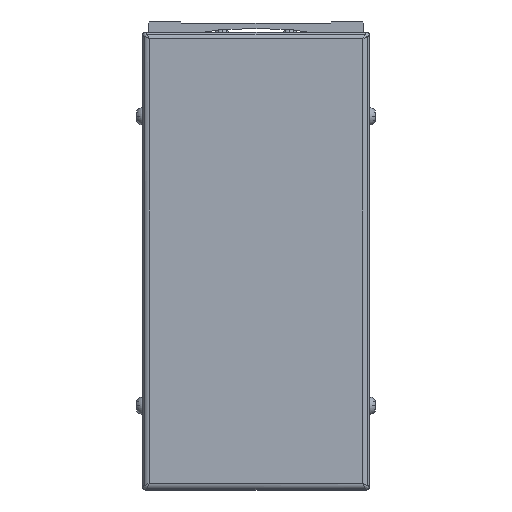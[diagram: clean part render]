
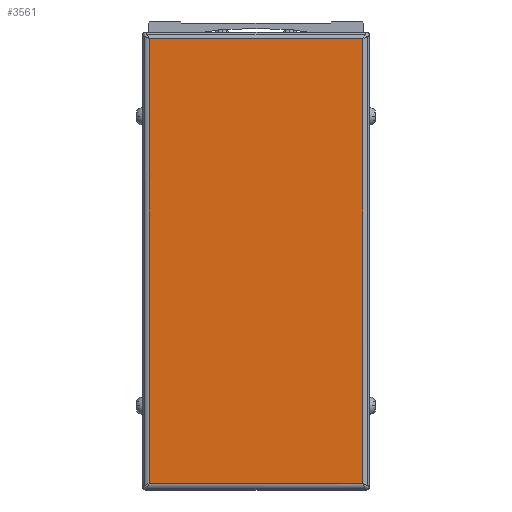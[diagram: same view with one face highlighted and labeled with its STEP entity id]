
A CAD part, front view. The second image highlights one B-rep face of the part: STEP entity #3561.
In plain terms, the highlighted planar face has unit normal (0, -1, 0).
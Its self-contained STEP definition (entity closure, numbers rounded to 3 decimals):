
#3561=ADVANCED_FACE('',(#7833),#7834,.T.);
#7833=FACE_OUTER_BOUND('',#13885,.T.);
#7834=PLANE('',#13886);
#13885=EDGE_LOOP('',(#23537,#23538,#23539,#23540));
#13886=AXIS2_PLACEMENT_3D('',#23541,#23542,#23543);
#23537=ORIENTED_EDGE('',*,*,#35628,.F.);
#23538=ORIENTED_EDGE('',*,*,#32139,.F.);
#23539=ORIENTED_EDGE('',*,*,#35629,.F.);
#23540=ORIENTED_EDGE('',*,*,#35341,.F.);
#23541=CARTESIAN_POINT('',(300.,181.,-44.));
#23542=DIRECTION('',(0.,-1.0,0.));
#23543=DIRECTION('',(0.,0.,1.0));
#32139=EDGE_CURVE('',#38172,#38174,#38175,.T.);
#35341=EDGE_CURVE('',#42874,#42237,#43414,.T.);
#35628=EDGE_CURVE('',#38174,#42874,#43817,.T.);
#35629=EDGE_CURVE('',#42237,#38172,#43818,.T.);
#38172=VERTEX_POINT('',#46983);
#38174=VERTEX_POINT('',#46985);
#38175=LINE('',#46986,#46987);
#42237=VERTEX_POINT('',#53018);
#42874=VERTEX_POINT('',#53896);
#43414=LINE('',#54668,#54669);
#43817=LINE('',#55241,#55242);
#43818=LINE('',#55243,#55244);
#46983=CARTESIAN_POINT('',(268.3,181.,-110.));
#46985=CARTESIAN_POINT('',(268.3,181.,22.));
#46986=CARTESIAN_POINT('',(268.3,181.,-44.));
#46987=VECTOR('',#59289,10.0);
#53018=CARTESIAN_POINT('',(331.7,181.,-110.));
#53896=CARTESIAN_POINT('',(331.7,181.,22.));
#54668=CARTESIAN_POINT('',(331.7,181.,-44.));
#54669=VECTOR('',#63133,10.0);
#55241=CARTESIAN_POINT('',(300.,181.,22.));
#55242=VECTOR('',#63451,10.0);
#55243=CARTESIAN_POINT('',(300.,181.,-110.));
#55244=VECTOR('',#63452,10.0);
#59289=DIRECTION('',(0.,0.,1.0));
#63133=DIRECTION('',(0.,0.,-1.0));
#63451=DIRECTION('',(1.0,0.,0.));
#63452=DIRECTION('',(-1.0,0.,0.));
